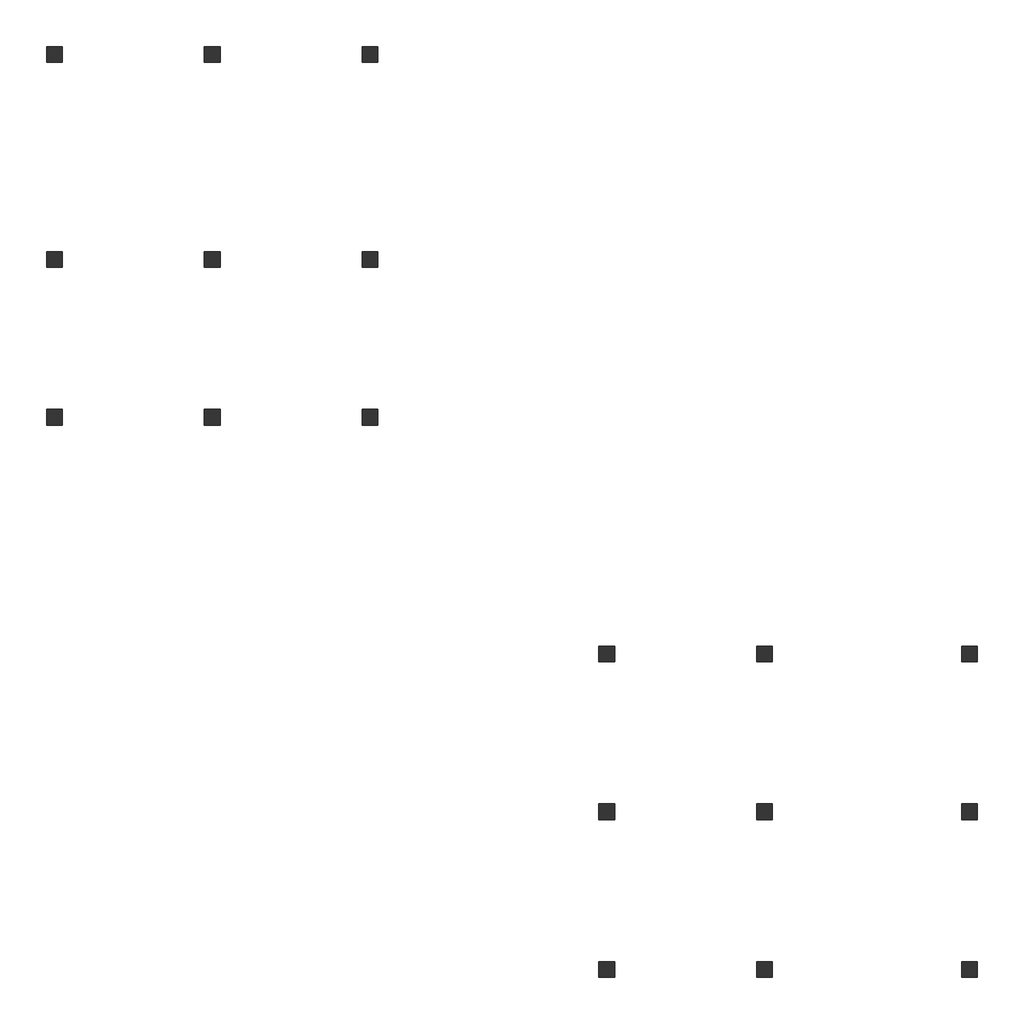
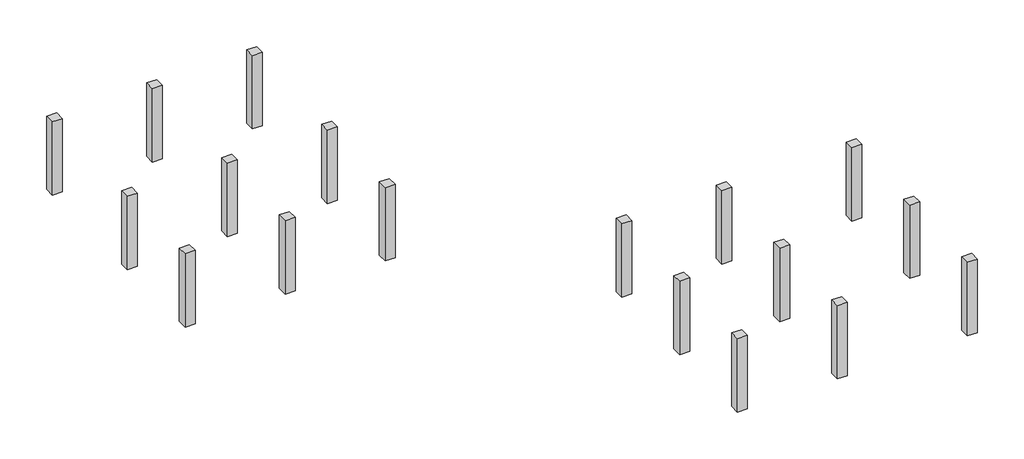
# One storey: 18 columns.
"""IFC4 building model written with IfcOpenShell, lengths in millimetres."""

from ifc_helpers import new_model, si_unit, frame, origin, place, context, project, spatial, polyline, outline, extrude, element, save

model = new_model("IFC4")

# Units and contexts
model_context = context("Model", 3, world=origin())
ifc_project = project(units=[si_unit("LENGTHUNIT", "METRE", prefix="MILLI")], contexts=[model_context])

# Site, building, storey
site = spatial("IfcSite", under=ifc_project)
building = spatial("IfcBuilding", under=site)
storey = spatial("IfcBuildingStorey", under=building, Name="T.O.F.", Elevation=-1676.4)

# Columns
placement = place(None, origin())
element("IfcColumn", 1, ObjectType="Concrete-Rectangular-Column : 24 x 24", at=placement, inside=storey, context=model_context, shape_type="SweptSolid", body=[
    extrude(outline(polyline([(-20530.7327416, -4470.8818503), (-20530.7327416, -3861.2818503), (-19921.1327416, -3861.2818503), (-19921.1327416, -4470.8818503), (-20530.7327416, -4470.8818503)])), frame((0.0, 0.0, -1676.4), z_axis=(0.0, 0.0, 1.0), x_axis=(1.0, 0.0, 0.0)), (0.0, 0.0, 1.0), 4724.4),
])
element("IfcColumn", 2, ObjectType="Concrete-Rectangular-Column : 24 x 24", at=placement, inside=storey, context=model_context, shape_type="SweptSolid", body=[
    extrude(outline(polyline([(-20530.7327416, 1625.1181497), (-20530.7327416, 2234.7181497), (-19921.1327416, 2234.7181497), (-19921.1327416, 1625.1181497), (-20530.7327416, 1625.1181497)])), frame((0.0, 0.0, -1676.4), z_axis=(0.0, 0.0, 1.0), x_axis=(1.0, 0.0, 0.0)), (0.0, 0.0, 1.0), 4724.4),
])
element("IfcColumn", 3, ObjectType="Concrete-Rectangular-Column : 24 x 24", at=placement, inside=storey, context=model_context, shape_type="SweptSolid", body=[
    extrude(outline(polyline([(-20530.7327416, 9549.9181497), (-20530.7327416, 10159.5181497), (-19921.1327416, 10159.5181497), (-19921.1327416, 9549.9181497), (-20530.7327416, 9549.9181497)])), frame((0.0, 0.0, -1676.4), z_axis=(0.0, 0.0, 1.0), x_axis=(1.0, 0.0, 0.0)), (0.0, 0.0, 1.0), 4724.4),
])
element("IfcColumn", 4, ObjectType="Concrete-Rectangular-Column : 24 x 24", at=placement, inside=storey, context=model_context, shape_type="SweptSolid", body=[
    extrude(outline(polyline([(-26626.7327416, -4470.8818503), (-26626.7327416, -3861.2818503), (-26017.1327416, -3861.2818503), (-26017.1327416, -4470.8818503), (-26626.7327416, -4470.8818503)])), frame((0.0, 0.0, -1676.4), z_axis=(0.0, 0.0, 1.0), x_axis=(1.0, 0.0, 0.0)), (0.0, 0.0, 1.0), 4724.4),
])
element("IfcColumn", 5, ObjectType="Concrete-Rectangular-Column : 24 x 24", at=placement, inside=storey, context=model_context, shape_type="SweptSolid", body=[
    extrude(outline(polyline([(-26626.7327416, 1625.1181497), (-26626.7327416, 2234.7181497), (-26017.1327416, 2234.7181497), (-26017.1327416, 1625.1181497), (-26626.7327416, 1625.1181497)])), frame((0.0, 0.0, -1676.4), z_axis=(0.0, 0.0, 1.0), x_axis=(1.0, 0.0, 0.0)), (0.0, 0.0, 1.0), 4724.4),
])
element("IfcColumn", 6, ObjectType="Concrete-Rectangular-Column : 24 x 24", at=placement, inside=storey, context=model_context, shape_type="SweptSolid", body=[
    extrude(outline(polyline([(-26626.7327416, 9549.9181497), (-26626.7327416, 10159.5181497), (-26017.1327416, 10159.5181497), (-26017.1327416, 9549.9181497), (-26626.7327416, 9549.9181497)])), frame((0.0, 0.0, -1676.4), z_axis=(0.0, 0.0, 1.0), x_axis=(1.0, 0.0, 0.0)), (0.0, 0.0, 1.0), 4724.4),
])
element("IfcColumn", 7, ObjectType="Concrete-Rectangular-Column : 24 x 24", at=placement, inside=storey, context=model_context, shape_type="SweptSolid", body=[
    extrude(outline(polyline([(-32722.7327416, -4470.8818503), (-32722.7327416, -3861.2818503), (-32113.1327416, -3861.2818503), (-32113.1327416, -4470.8818503), (-32722.7327416, -4470.8818503)])), frame((0.0, 0.0, -1676.4), z_axis=(0.0, 0.0, 1.0), x_axis=(1.0, 0.0, 0.0)), (0.0, 0.0, 1.0), 4724.4),
])
element("IfcColumn", 8, ObjectType="Concrete-Rectangular-Column : 24 x 24", at=placement, inside=storey, context=model_context, shape_type="SweptSolid", body=[
    extrude(outline(polyline([(-32722.7327416, 1625.1181497), (-32722.7327416, 2234.7181497), (-32113.1327416, 2234.7181497), (-32113.1327416, 1625.1181497), (-32722.7327416, 1625.1181497)])), frame((0.0, 0.0, -1676.4), z_axis=(0.0, 0.0, 1.0), x_axis=(1.0, 0.0, 0.0)), (0.0, 0.0, 1.0), 4724.4),
])
element("IfcColumn", 9, ObjectType="Concrete-Rectangular-Column : 24 x 24", at=placement, inside=storey, context=model_context, shape_type="SweptSolid", body=[
    extrude(outline(polyline([(-32722.7327416, 9549.9181497), (-32722.7327416, 10159.5181497), (-32113.1327416, 10159.5181497), (-32113.1327416, 9549.9181497), (-32722.7327416, 9549.9181497)])), frame((0.0, 0.0, -1676.4), z_axis=(0.0, 0.0, 1.0), x_axis=(1.0, 0.0, 0.0)), (0.0, 0.0, 1.0), 4724.4),
])
element("IfcColumn", 10, ObjectType="Concrete-Rectangular-Column : 24 x 24", at=placement, inside=storey, context=model_context, shape_type="SweptSolid", body=[
    extrude(outline(polyline([(-11386.7327416, -13614.8818503), (-11386.7327416, -13005.2818503), (-10777.1327416, -13005.2818503), (-10777.1327416, -13614.8818503), (-11386.7327416, -13614.8818503)])), frame((0.0, 0.0, -1676.4), z_axis=(0.0, 0.0, 1.0), x_axis=(1.0, 0.0, 0.0)), (0.0, 0.0, 1.0), 4724.4),
])
element("IfcColumn", 11, ObjectType="Concrete-Rectangular-Column : 24 x 24", at=placement, inside=storey, context=model_context, shape_type="SweptSolid", body=[
    extrude(outline(polyline([(-5290.7327416, -13614.8818503), (-5290.7327416, -13005.2818503), (-4681.1327416, -13005.2818503), (-4681.1327416, -13614.8818503), (-5290.7327416, -13614.8818503)])), frame((0.0, 0.0, -1676.4), z_axis=(0.0, 0.0, 1.0), x_axis=(1.0, 0.0, 0.0)), (0.0, 0.0, 1.0), 4724.4),
])
element("IfcColumn", 12, ObjectType="Concrete-Rectangular-Column : 24 x 24", at=placement, inside=storey, context=model_context, shape_type="SweptSolid", body=[
    extrude(outline(polyline([(2634.0672584, -13614.8818503), (2634.0672584, -13005.2818503), (3243.6672584, -13005.2818503), (3243.6672584, -13614.8818503), (2634.0672584, -13614.8818503)])), frame((0.0, 0.0, -1676.4), z_axis=(0.0, 0.0, 1.0), x_axis=(1.0, 0.0, 0.0)), (0.0, 0.0, 1.0), 4724.4),
])
element("IfcColumn", 13, ObjectType="Concrete-Rectangular-Column : 24 x 24", at=placement, inside=storey, context=model_context, shape_type="SweptSolid", body=[
    extrude(outline(polyline([(-11386.7327416, -19710.8818503), (-11386.7327416, -19101.2818503), (-10777.1327416, -19101.2818503), (-10777.1327416, -19710.8818503), (-11386.7327416, -19710.8818503)])), frame((0.0, 0.0, -1676.4), z_axis=(0.0, 0.0, 1.0), x_axis=(1.0, 0.0, 0.0)), (0.0, 0.0, 1.0), 4724.4),
])
element("IfcColumn", 14, ObjectType="Concrete-Rectangular-Column : 24 x 24", at=placement, inside=storey, context=model_context, shape_type="SweptSolid", body=[
    extrude(outline(polyline([(-5290.7327416, -19710.8818503), (-5290.7327416, -19101.2818503), (-4681.1327416, -19101.2818503), (-4681.1327416, -19710.8818503), (-5290.7327416, -19710.8818503)])), frame((0.0, 0.0, -1676.4), z_axis=(0.0, 0.0, 1.0), x_axis=(1.0, 0.0, 0.0)), (0.0, 0.0, 1.0), 4724.4),
])
element("IfcColumn", 15, ObjectType="Concrete-Rectangular-Column : 24 x 24", at=placement, inside=storey, context=model_context, shape_type="SweptSolid", body=[
    extrude(outline(polyline([(2634.0672584, -19710.8818503), (2634.0672584, -19101.2818503), (3243.6672584, -19101.2818503), (3243.6672584, -19710.8818503), (2634.0672584, -19710.8818503)])), frame((0.0, 0.0, -1676.4), z_axis=(0.0, 0.0, 1.0), x_axis=(1.0, 0.0, 0.0)), (0.0, 0.0, 1.0), 4724.4),
])
element("IfcColumn", 16, ObjectType="Concrete-Rectangular-Column : 24 x 24", at=placement, inside=storey, context=model_context, shape_type="SweptSolid", body=[
    extrude(outline(polyline([(-11386.7327416, -25806.8818503), (-11386.7327416, -25197.2818503), (-10777.1327416, -25197.2818503), (-10777.1327416, -25806.8818503), (-11386.7327416, -25806.8818503)])), frame((0.0, 0.0, -1676.4), z_axis=(0.0, 0.0, 1.0), x_axis=(1.0, 0.0, 0.0)), (0.0, 0.0, 1.0), 4724.4),
])
element("IfcColumn", 17, ObjectType="Concrete-Rectangular-Column : 24 x 24", at=placement, inside=storey, context=model_context, shape_type="SweptSolid", body=[
    extrude(outline(polyline([(-5290.7327416, -25806.8818503), (-5290.7327416, -25197.2818503), (-4681.1327416, -25197.2818503), (-4681.1327416, -25806.8818503), (-5290.7327416, -25806.8818503)])), frame((0.0, 0.0, -1676.4), z_axis=(0.0, 0.0, 1.0), x_axis=(1.0, 0.0, 0.0)), (0.0, 0.0, 1.0), 4724.4),
])
element("IfcColumn", 18, ObjectType="Concrete-Rectangular-Column : 24 x 24", at=placement, inside=storey, context=model_context, shape_type="SweptSolid", body=[
    extrude(outline(polyline([(2634.0672584, -25806.8818503), (2634.0672584, -25197.2818503), (3243.6672584, -25197.2818503), (3243.6672584, -25806.8818503), (2634.0672584, -25806.8818503)])), frame((0.0, 0.0, -1676.4), z_axis=(0.0, 0.0, 1.0), x_axis=(1.0, 0.0, 0.0)), (0.0, 0.0, 1.0), 4724.4),
])

save(model, "model.ifc")
